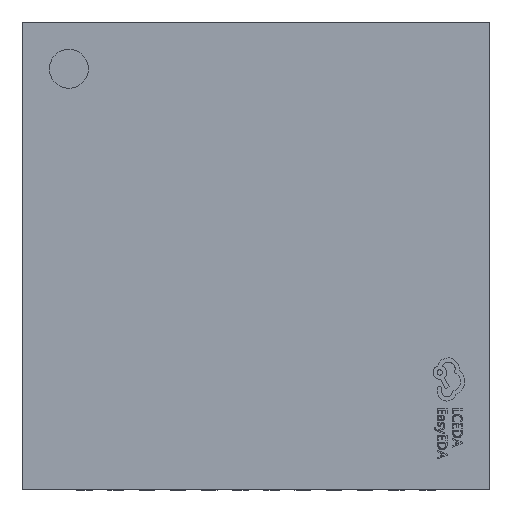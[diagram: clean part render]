
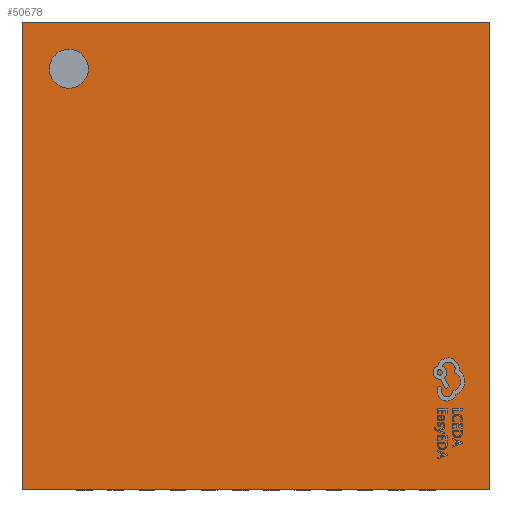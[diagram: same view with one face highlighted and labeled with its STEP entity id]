
A CAD part, top view. The second image highlights one B-rep face of the part: STEP entity #50678.
In plain terms, the highlighted planar face has unit normal (0, 0, 1).
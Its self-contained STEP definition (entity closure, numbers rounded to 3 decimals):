
#50568 = VERTEX_POINT('',#50569);
#50569 = CARTESIAN_POINT('',(-2.4,2.15,0.9));
#50576 = CYLINDRICAL_SURFACE('',#50577,0.25);
#50577 = AXIS2_PLACEMENT_3D('',#50578,#50579,#50580);
#50578 = CARTESIAN_POINT('',(-2.4,2.4,0.88));
#50579 = DIRECTION('',(0.,0.,1.));
#50580 = DIRECTION('',(0.,-1.,0.));
#50588 = CYLINDRICAL_SURFACE('',#50589,0.25);
#50589 = AXIS2_PLACEMENT_3D('',#50590,#50591,#50592);
#50590 = CARTESIAN_POINT('',(-2.4,2.4,0.88));
#50591 = DIRECTION('',(0.,0.,1.));
#50592 = DIRECTION('',(0.,-1.,0.));
#50600 = EDGE_CURVE('',#50601,#50568,#50603,.T.);
#50601 = VERTEX_POINT('',#50602);
#50602 = CARTESIAN_POINT('',(-2.4,2.65,0.9));
#50603 = SURFACE_CURVE('',#50604,(#50609,#50616),.PCURVE_S1.);
#50604 = CIRCLE('',#50605,0.25);
#50605 = AXIS2_PLACEMENT_3D('',#50606,#50607,#50608);
#50606 = CARTESIAN_POINT('',(-2.4,2.4,0.9));
#50607 = DIRECTION('',(0.,0.,1.));
#50608 = DIRECTION('',(0.,-1.,0.));
#50609 = PCURVE('',#50576,#50610);
#50610 = DEFINITIONAL_REPRESENTATION('',(#50611),#50615);
#50611 = LINE('',#50612,#50613);
#50612 = CARTESIAN_POINT('',(0.,0.02));
#50613 = VECTOR('',#50614,1.);
#50614 = DIRECTION('',(1.,0.));
#50615 = ( GEOMETRIC_REPRESENTATION_CONTEXT(2) 
PARAMETRIC_REPRESENTATION_CONTEXT() REPRESENTATION_CONTEXT('2D SPACE',''
  ) );
#50616 = PCURVE('',#50617,#50622);
#50617 = PLANE('',#50618);
#50618 = AXIS2_PLACEMENT_3D('',#50619,#50620,#50621);
#50619 = CARTESIAN_POINT('',(0.,0.,0.9));
#50620 = DIRECTION('',(0.,0.,1.));
#50621 = DIRECTION('',(0.,-1.,0.));
#50622 = DEFINITIONAL_REPRESENTATION('',(#50623),#50627);
#50623 = CIRCLE('',#50624,0.25);
#50624 = AXIS2_PLACEMENT_2D('',#50625,#50626);
#50625 = CARTESIAN_POINT('',(-2.4,-2.4));
#50626 = DIRECTION('',(1.,0.));
#50627 = ( GEOMETRIC_REPRESENTATION_CONTEXT(2) 
PARAMETRIC_REPRESENTATION_CONTEXT() REPRESENTATION_CONTEXT('2D SPACE',''
  ) );
#50678 = ADVANCED_FACE('',(#50679,#50704),#50617,.T.);
#50679 = FACE_BOUND('',#50680,.T.);
#50680 = EDGE_LOOP('',(#50681,#50703));
#50681 = ORIENTED_EDGE('',*,*,#50682,.F.);
#50682 = EDGE_CURVE('',#50568,#50601,#50683,.T.);
#50683 = SURFACE_CURVE('',#50684,(#50689,#50696),.PCURVE_S1.);
#50684 = CIRCLE('',#50685,0.25);
#50685 = AXIS2_PLACEMENT_3D('',#50686,#50687,#50688);
#50686 = CARTESIAN_POINT('',(-2.4,2.4,0.9));
#50687 = DIRECTION('',(0.,0.,1.));
#50688 = DIRECTION('',(0.,-1.,0.));
#50689 = PCURVE('',#50617,#50690);
#50690 = DEFINITIONAL_REPRESENTATION('',(#50691),#50695);
#50691 = CIRCLE('',#50692,0.25);
#50692 = AXIS2_PLACEMENT_2D('',#50693,#50694);
#50693 = CARTESIAN_POINT('',(-2.4,-2.4));
#50694 = DIRECTION('',(1.,0.));
#50695 = ( GEOMETRIC_REPRESENTATION_CONTEXT(2) 
PARAMETRIC_REPRESENTATION_CONTEXT() REPRESENTATION_CONTEXT('2D SPACE',''
  ) );
#50696 = PCURVE('',#50588,#50697);
#50697 = DEFINITIONAL_REPRESENTATION('',(#50698),#50702);
#50698 = LINE('',#50699,#50700);
#50699 = CARTESIAN_POINT('',(0.,0.02));
#50700 = VECTOR('',#50701,1.);
#50701 = DIRECTION('',(1.,0.));
#50702 = ( GEOMETRIC_REPRESENTATION_CONTEXT(2) 
PARAMETRIC_REPRESENTATION_CONTEXT() REPRESENTATION_CONTEXT('2D SPACE',''
  ) );
#50703 = ORIENTED_EDGE('',*,*,#50600,.F.);
#50704 = FACE_BOUND('',#50705,.T.);
#50705 = EDGE_LOOP('',(#50706,#50736,#50764,#50792));
#50706 = ORIENTED_EDGE('',*,*,#50707,.T.);
#50707 = EDGE_CURVE('',#50708,#50710,#50712,.T.);
#50708 = VERTEX_POINT('',#50709);
#50709 = CARTESIAN_POINT('',(-3.,-3.,0.9));
#50710 = VERTEX_POINT('',#50711);
#50711 = CARTESIAN_POINT('',(3.,-3.,0.9));
#50712 = SURFACE_CURVE('',#50713,(#50717,#50724),.PCURVE_S1.);
#50713 = LINE('',#50714,#50715);
#50714 = CARTESIAN_POINT('',(3.,-3.,0.9));
#50715 = VECTOR('',#50716,1.);
#50716 = DIRECTION('',(1.,0.,0.));
#50717 = PCURVE('',#50617,#50718);
#50718 = DEFINITIONAL_REPRESENTATION('',(#50719),#50723);
#50719 = LINE('',#50720,#50721);
#50720 = CARTESIAN_POINT('',(3.,3.));
#50721 = VECTOR('',#50722,1.);
#50722 = DIRECTION('',(0.,1.));
#50723 = ( GEOMETRIC_REPRESENTATION_CONTEXT(2) 
PARAMETRIC_REPRESENTATION_CONTEXT() REPRESENTATION_CONTEXT('2D SPACE',''
  ) );
#50724 = PCURVE('',#50725,#50730);
#50725 = PLANE('',#50726);
#50726 = AXIS2_PLACEMENT_3D('',#50727,#50728,#50729);
#50727 = CARTESIAN_POINT('',(3.,-3.,0.9));
#50728 = DIRECTION('',(0.,1.,0.));
#50729 = DIRECTION('',(-1.,0.,0.));
#50730 = DEFINITIONAL_REPRESENTATION('',(#50731),#50735);
#50731 = LINE('',#50732,#50733);
#50732 = CARTESIAN_POINT('',(0.,0.));
#50733 = VECTOR('',#50734,1.);
#50734 = DIRECTION('',(-1.,0.));
#50735 = ( GEOMETRIC_REPRESENTATION_CONTEXT(2) 
PARAMETRIC_REPRESENTATION_CONTEXT() REPRESENTATION_CONTEXT('2D SPACE',''
  ) );
#50736 = ORIENTED_EDGE('',*,*,#50737,.T.);
#50737 = EDGE_CURVE('',#50710,#50738,#50740,.T.);
#50738 = VERTEX_POINT('',#50739);
#50739 = CARTESIAN_POINT('',(3.,3.,0.9));
#50740 = SURFACE_CURVE('',#50741,(#50745,#50752),.PCURVE_S1.);
#50741 = LINE('',#50742,#50743);
#50742 = CARTESIAN_POINT('',(3.,3.,0.9));
#50743 = VECTOR('',#50744,1.);
#50744 = DIRECTION('',(0.,1.,-0.));
#50745 = PCURVE('',#50617,#50746);
#50746 = DEFINITIONAL_REPRESENTATION('',(#50747),#50751);
#50747 = LINE('',#50748,#50749);
#50748 = CARTESIAN_POINT('',(-3.,3.));
#50749 = VECTOR('',#50750,1.);
#50750 = DIRECTION('',(-1.,0.));
#50751 = ( GEOMETRIC_REPRESENTATION_CONTEXT(2) 
PARAMETRIC_REPRESENTATION_CONTEXT() REPRESENTATION_CONTEXT('2D SPACE',''
  ) );
#50752 = PCURVE('',#50753,#50758);
#50753 = PLANE('',#50754);
#50754 = AXIS2_PLACEMENT_3D('',#50755,#50756,#50757);
#50755 = CARTESIAN_POINT('',(3.,3.,0.9));
#50756 = DIRECTION('',(-1.,0.,0.));
#50757 = DIRECTION('',(0.,0.,-1.));
#50758 = DEFINITIONAL_REPRESENTATION('',(#50759),#50763);
#50759 = LINE('',#50760,#50761);
#50760 = CARTESIAN_POINT('',(0.,-0.));
#50761 = VECTOR('',#50762,1.);
#50762 = DIRECTION('',(0.,-1.));
#50763 = ( GEOMETRIC_REPRESENTATION_CONTEXT(2) 
PARAMETRIC_REPRESENTATION_CONTEXT() REPRESENTATION_CONTEXT('2D SPACE',''
  ) );
#50764 = ORIENTED_EDGE('',*,*,#50765,.T.);
#50765 = EDGE_CURVE('',#50738,#50766,#50768,.T.);
#50766 = VERTEX_POINT('',#50767);
#50767 = CARTESIAN_POINT('',(-3.,3.,0.9));
#50768 = SURFACE_CURVE('',#50769,(#50773,#50780),.PCURVE_S1.);
#50769 = LINE('',#50770,#50771);
#50770 = CARTESIAN_POINT('',(3.,3.,0.9));
#50771 = VECTOR('',#50772,1.);
#50772 = DIRECTION('',(-1.,0.,0.));
#50773 = PCURVE('',#50617,#50774);
#50774 = DEFINITIONAL_REPRESENTATION('',(#50775),#50779);
#50775 = LINE('',#50776,#50777);
#50776 = CARTESIAN_POINT('',(-3.,3.));
#50777 = VECTOR('',#50778,1.);
#50778 = DIRECTION('',(0.,-1.));
#50779 = ( GEOMETRIC_REPRESENTATION_CONTEXT(2) 
PARAMETRIC_REPRESENTATION_CONTEXT() REPRESENTATION_CONTEXT('2D SPACE',''
  ) );
#50780 = PCURVE('',#50781,#50786);
#50781 = PLANE('',#50782);
#50782 = AXIS2_PLACEMENT_3D('',#50783,#50784,#50785);
#50783 = CARTESIAN_POINT('',(3.,3.,0.9));
#50784 = DIRECTION('',(0.,-1.,0.));
#50785 = DIRECTION('',(1.,0.,0.));
#50786 = DEFINITIONAL_REPRESENTATION('',(#50787),#50791);
#50787 = LINE('',#50788,#50789);
#50788 = CARTESIAN_POINT('',(0.,0.));
#50789 = VECTOR('',#50790,1.);
#50790 = DIRECTION('',(-1.,0.));
#50791 = ( GEOMETRIC_REPRESENTATION_CONTEXT(2) 
PARAMETRIC_REPRESENTATION_CONTEXT() REPRESENTATION_CONTEXT('2D SPACE',''
  ) );
#50792 = ORIENTED_EDGE('',*,*,#50793,.T.);
#50793 = EDGE_CURVE('',#50766,#50708,#50794,.T.);
#50794 = SURFACE_CURVE('',#50795,(#50799,#50806),.PCURVE_S1.);
#50795 = LINE('',#50796,#50797);
#50796 = CARTESIAN_POINT('',(-3.,3.,0.9));
#50797 = VECTOR('',#50798,1.);
#50798 = DIRECTION('',(0.,-1.,0.));
#50799 = PCURVE('',#50617,#50800);
#50800 = DEFINITIONAL_REPRESENTATION('',(#50801),#50805);
#50801 = LINE('',#50802,#50803);
#50802 = CARTESIAN_POINT('',(-3.,-3.));
#50803 = VECTOR('',#50804,1.);
#50804 = DIRECTION('',(1.,0.));
#50805 = ( GEOMETRIC_REPRESENTATION_CONTEXT(2) 
PARAMETRIC_REPRESENTATION_CONTEXT() REPRESENTATION_CONTEXT('2D SPACE',''
  ) );
#50806 = PCURVE('',#50807,#50812);
#50807 = PLANE('',#50808);
#50808 = AXIS2_PLACEMENT_3D('',#50809,#50810,#50811);
#50809 = CARTESIAN_POINT('',(-3.,3.,0.9));
#50810 = DIRECTION('',(1.,0.,0.));
#50811 = DIRECTION('',(0.,0.,1.));
#50812 = DEFINITIONAL_REPRESENTATION('',(#50813),#50817);
#50813 = LINE('',#50814,#50815);
#50814 = CARTESIAN_POINT('',(0.,0.));
#50815 = VECTOR('',#50816,1.);
#50816 = DIRECTION('',(0.,1.));
#50817 = ( GEOMETRIC_REPRESENTATION_CONTEXT(2) 
PARAMETRIC_REPRESENTATION_CONTEXT() REPRESENTATION_CONTEXT('2D SPACE',''
  ) );
